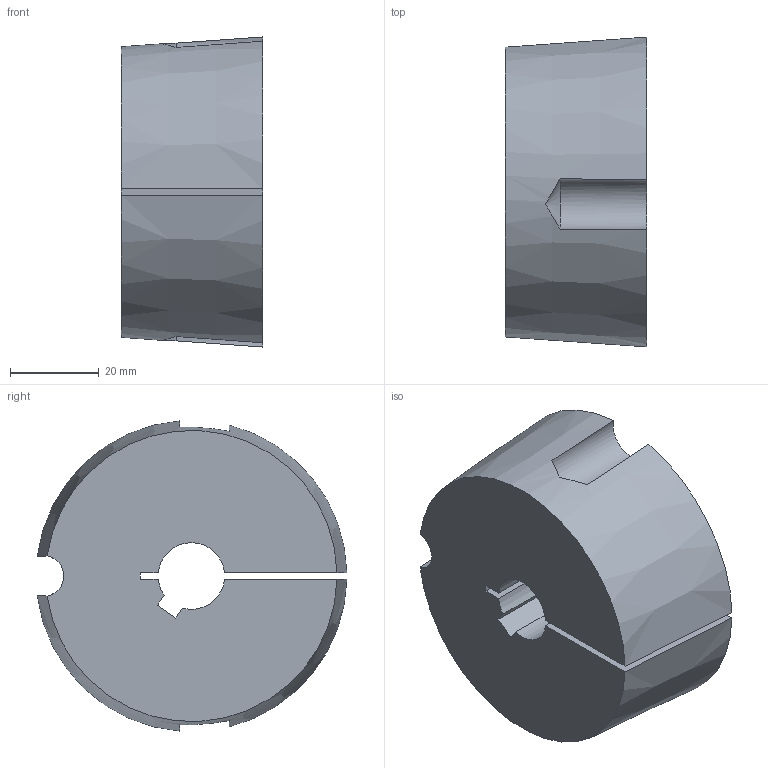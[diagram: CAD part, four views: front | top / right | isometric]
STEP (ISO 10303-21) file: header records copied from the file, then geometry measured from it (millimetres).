
FILE_DESCRIPTION( ( 'STEP AP203' ), '1' );
FILE_NAME( 'D:/export/antriebselemente/spannbuchsen_und_spannsaetze/taper-spannbuchsen_1008_bis_5050/taper-spannbuchsen_62250515Isometric_110.stp', '2018-12-11T11:11:11', ( '' ), ( '' ), ' ', 'PARTsolutions', ' ' );
FILE_SCHEMA( ( 'CONFIG_CONTROL_DESIGN' ) );
Length unit declared in the file: millimetre
Products named in the file (1): _taper-spannbuchsen_62250515
Bounding box: 31.8 x 69.72 x 69.81 mm (x, y, z)
Volume: 103717.8 mm3; surface area: 17388.7 mm2
Topology: 1 solids, 1 shells, 20 faces, 54 edges, 36 vertices
Faces by surface type: plane 10, cylinder 6, cone 4
Entity records: 752 total; most frequent: CARTESIAN_POINT 203, ORIENTED_EDGE 108, DIRECTION 104, EDGE_CURVE 54, AXIS2_PLACEMENT_3D 39, VERTEX_POINT 36, LINE 26, VECTOR 26
